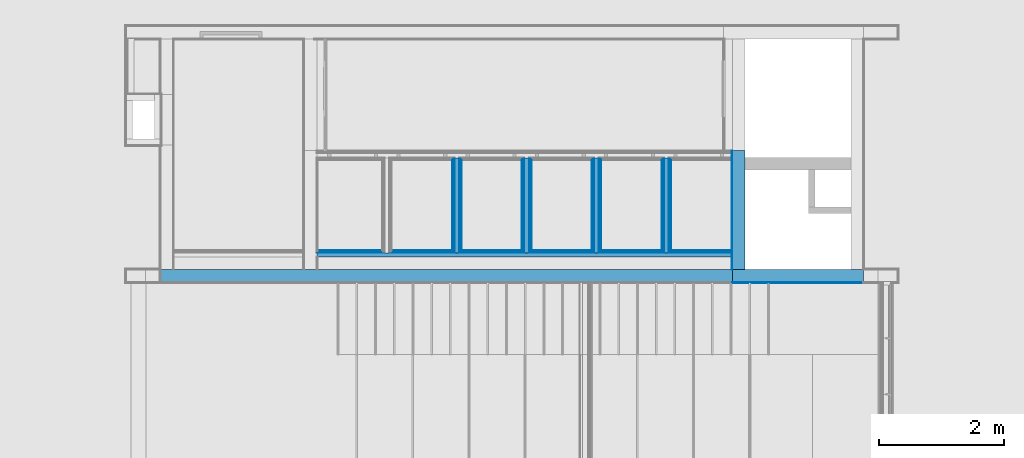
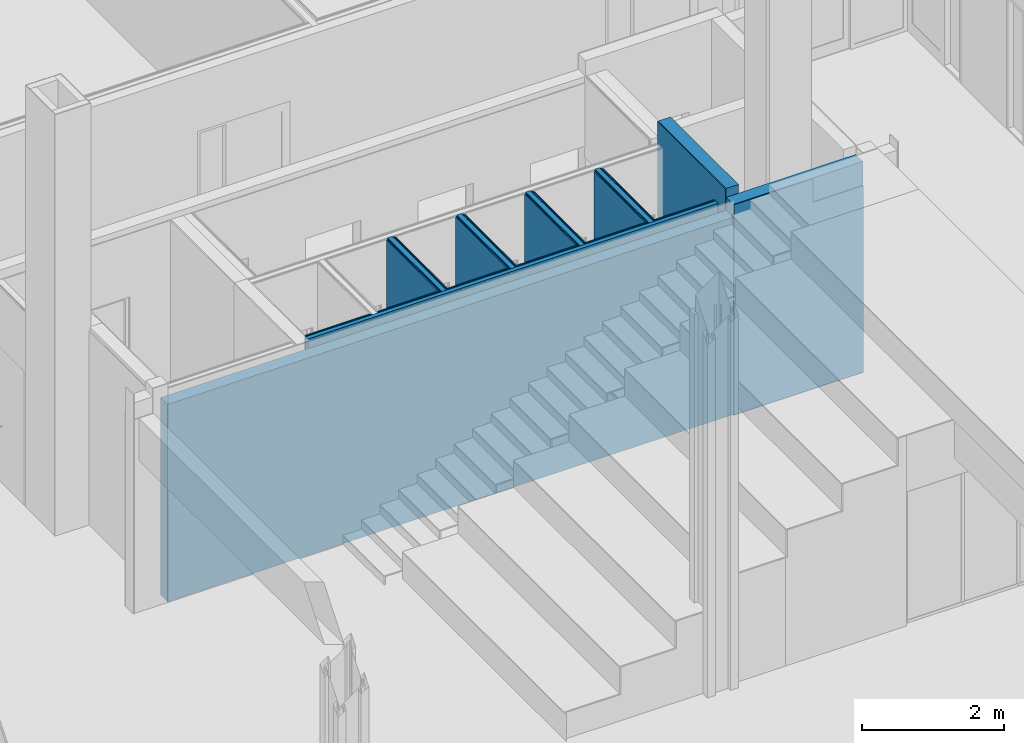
# One storey, part 95 of 139: 37 building element parts, 8 elements without a shape of their own.
"""IFC2X3 building model written with IfcOpenShell, lengths in millimetres."""

from ifc_helpers import new_model, entity, si_unit, converted_unit, derived_unit, money_unit, direction, frame, origin_with_axes, place, context, subcontext, project, spatial, faceted_brep, material, type_object, element, aggregate, save


model = new_model("IFC2X3")

# Units and contexts
model_context = context("Model", 3, precision=0.01, world=origin_with_axes(), true_north=direction((0.0, 1.0)))
body_context = subcontext(model_context, "Body", "Model", "MODEL_VIEW")
ifc_project = project(units=[si_unit("LENGTHUNIT", "METRE", prefix="MILLI"), si_unit("AREAUNIT", "SQUARE_METRE"), si_unit("VOLUMEUNIT", "CUBIC_METRE"), converted_unit("PLANEANGLEUNIT", "DEGREE", entity("IfcPlaneAngleMeasure", 0.0174532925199), si_unit("PLANEANGLEUNIT", "RADIAN"), dimensions=[0, 0, 0, 0, 0, 0, 0]), money_unit("EUR"), converted_unit("TIMEUNIT", "Year", entity("IfcTimeMeasure", 31556926.0), si_unit("TIMEUNIT", "SECOND"), dimensions=[0, 0, 1, 0, 0, 0, 0]), si_unit("MASSUNIT", "GRAM", prefix="KILO"), si_unit("THERMODYNAMICTEMPERATUREUNIT", "DEGREE_CELSIUS"), si_unit("LUMINOUSINTENSITYUNIT", "LUMEN"), si_unit("ENERGYUNIT", "JOULE", prefix="MEGA"), derived_unit("THERMALCONDUCTANCEUNIT", [(si_unit("POWERUNIT", "WATT"), 1), (si_unit("LENGTHUNIT", "METRE"), -1), (si_unit("THERMODYNAMICTEMPERATUREUNIT", "KELVIN"), -1)]), derived_unit("SPECIFICHEATCAPACITYUNIT", [(si_unit("ENERGYUNIT", "JOULE"), 1), (si_unit("MASSUNIT", "GRAM", prefix="KILO"), -1), (si_unit("THERMODYNAMICTEMPERATUREUNIT", "KELVIN"), -1)]), derived_unit("MASSDENSITYUNIT", [(si_unit("MASSUNIT", "GRAM", prefix="KILO"), 1), (si_unit("VOLUMEUNIT", "CUBIC_METRE"), -1)])], contexts=[model_context])

# Site, building, storey
site_placement = place(None, origin_with_axes())
site = spatial("IfcSite", under=ifc_project, at=site_placement, Name="Kolde pst 67a", CompositionType="ELEMENT")
building_placement = place(site_placement, origin_with_axes())
building = spatial("IfcBuilding", under=site, at=building_placement, Name="Riigigümnaasium", CompositionType="ELEMENT")
storey_placement = place(building_placement, frame((0.0, 0.0, 4600.0), z_axis=(0.0, 0.0, 1.0), x_axis=(1.0, 0.0, 0.0)))
storey = spatial("IfcBuildingStorey", under=building, at=storey_placement, Name="2. korrus", CompositionType="ELEMENT", Elevation=4600.0)

# Wall, building element parts
wall_type_1 = type_object("IfcWallType", Name="SS-RB-20/5_+1 plaat 215", PredefinedType="NOTDEFINED")
wall_1_placement = place(storey_placement, frame((45774.9854607, 45869.9999598, 0.0), z_axis=(0.0, 0.0, 1.0), x_axis=(0.0, 1.0, 0.0)))
wall_1 = element("IfcWall", 1, at=wall_1_placement, inside=storey, type_object=wall_type_1, Name="Sisesein")
ifc_material_1 = material(Name="_VIIMISTLUSKIHT - viimistlus vastavalt SA osale")
building_element_part_1_placement = place(wall_1_placement, origin_with_axes())
building_element_part_1 = element("IfcBuildingElementPart", 2, at=building_element_part_1_placement, material=ifc_material_1, Name="_VIIMISTLUSKIHT - viimistlus vastavalt SA osale", context=body_context, shape_type="Brep", body=[
    faceted_brep([(1908.50000096, 0.0, 3750.0), (1908.50000096, 15.0, 3750.0), (0.0, 15.0, 3750.0), (0.0, 0.0, 3750.0), (1908.50000096, 0.0, 0.0), (1908.50000096, 15.0, 0.0), (0.0, 15.0, 0.0), (0.0, 0.0, 0.0)], [[[0, 1, 2, 3]], [[0, 4, 5, 1]], [[1, 5, 6, 2]], [[3, 2, 6, 7]], [[4, 0, 3, 7]], [[5, 4, 7, 6]]]),
])
ifc_material_2 = material(Name="_KANDETARIND - monteeritav raudbetoon vastavalt EK osale")
building_element_part_2_placement = place(wall_1_placement, origin_with_axes())
building_element_part_2 = element("IfcBuildingElementPart", 3, at=building_element_part_2_placement, material=ifc_material_2, Name="_KANDETARIND - monteeritav raudbetoon vastavalt EK osale", context=body_context, shape_type="Brep", body=[
    faceted_brep([(1908.50000096, -200.0, 3750.0), (1908.50000096, 0.0, 3750.0), (0.0, 0.0, 3750.0), (0.0, -200.0, 3750.0), (1908.50000096, -200.0, 0.0), (1908.50000096, 0.0, 0.0), (0.0, 0.0, 0.0), (0.0, -200.0, 0.0)], [[[0, 1, 2, 3]], [[0, 4, 5, 1]], [[1, 5, 6, 2]], [[3, 2, 6, 7]], [[4, 0, 3, 7]], [[5, 4, 7, 6]]]),
])
aggregate(wall_1, [building_element_part_1, building_element_part_2])

wall_type_2 = type_object("IfcWallType", Name="SS-MK-7,5/1_plaaditud 155", PredefinedType="NOTDEFINED")
wall_2_placement = place(storey_placement, frame((44639.9854607, 46179.9999966, 0.0), z_axis=(0.0, 0.0, 1.0), x_axis=(0.0, 1.0, 0.0)))
wall_2 = element("IfcWall", 4, at=wall_2_placement, inside=storey, type_object=wall_type_2, Name="Sisesein")
building_element_part_3_placement = place(wall_2_placement, origin_with_axes())
building_element_part_3 = element("IfcBuildingElementPart", 5, at=building_element_part_3_placement, material=ifc_material_1, Name="_VIIMISTLUSKIHT - viimistlus vastavalt SA osale", context=body_context, shape_type="Brep", body=[
    faceted_brep([(1443.49996421, 0.0, 3380.0), (1443.49996421, -15.0, 3380.0), (1443.49996421, -15.0, 0.0), (1443.49996421, 0.0, 0.0), (0.0, -15.0, 3380.0), (0.0, 0.0, 3380.0), (0.0, -15.0, 0.0), (0.0, 0.0, 0.0)], [[[0, 1, 2, 3]], [[4, 1, 0, 5]], [[1, 4, 6, 2]], [[3, 2, 6, 7]], [[5, 0, 3, 7]], [[4, 5, 7, 6]]]),
])
ifc_material_3 = material(Name="_PLAATMATERJAL - kipsplaat veekindel")
building_element_part_4_placement = place(wall_2_placement, origin_with_axes())
building_element_part_4 = element("IfcBuildingElementPart", 6, at=building_element_part_4_placement, material=ifc_material_3, Name="_PLAATMATERJAL - kipsplaat veekindel", context=body_context, shape_type="Brep", body=[
    faceted_brep([(1458.49996421, -15.0, 3380.0), (1458.49996421, -27.5, 3380.0), (1458.49996421, -27.5, 0.0), (1458.49996421, -15.0, 0.0), (-15.0, -27.5, 3380.0), (-15.0, -15.0, 3380.0), (-15.0, -27.5, 0.0), (-15.0, -15.0, 0.0)], [[[0, 1, 2, 3]], [[4, 1, 0, 5]], [[1, 4, 6, 2]], [[3, 2, 6, 7]], [[5, 0, 3, 7]], [[4, 5, 7, 6]]]),
])
building_element_part_5_placement = place(wall_2_placement, origin_with_axes())
building_element_part_5 = element("IfcBuildingElementPart", 7, at=building_element_part_5_placement, material=ifc_material_3, Name="_PLAATMATERJAL - kipsplaat veekindel", context=body_context, shape_type="Brep", body=[
    faceted_brep([(1470.99996421, -27.5, 3380.0), (1470.99996421, -40.0, 3380.0), (1470.99996421, -40.0, 0.0), (1470.99996421, -27.5, 0.0), (-27.5, -40.0, 3380.0), (-27.5, -27.5, 3380.0), (-27.5, -40.0, 0.0), (-27.5, -27.5, 0.0)], [[[0, 1, 2, 3]], [[4, 1, 0, 5]], [[1, 4, 6, 2]], [[3, 2, 6, 7]], [[5, 0, 3, 7]], [[4, 5, 7, 6]]]),
])
ifc_material_4 = material(Name="_KARKASS - metallkarkass CW 75/50, mineraalvill karkassi vahel")
building_element_part_6_placement = place(wall_2_placement, origin_with_axes())
building_element_part_6 = element("IfcBuildingElementPart", 8, at=building_element_part_6_placement, material=ifc_material_4, Name="_KARKASS - metallkarkass CW 75/50, mineraalvill karkassi vahel", context=body_context, shape_type="Brep", body=[
    faceted_brep([(1483.49996421, -40.0, 3380.0), (1483.49996421, -115.0, 3380.0), (1483.49996421, -115.0, 0.0), (1483.49996421, -40.0, 0.0), (-40.0, -115.0, 3380.0), (-40.0, -40.0, 3380.0), (-40.0, -115.0, 0.0), (-40.0, -40.0, 0.0)], [[[0, 1, 2, 3]], [[4, 1, 0, 5]], [[1, 4, 6, 2]], [[3, 2, 6, 7]], [[5, 0, 3, 7]], [[4, 5, 7, 6]]]),
])
building_element_part_7_placement = place(wall_2_placement, origin_with_axes())
building_element_part_7 = element("IfcBuildingElementPart", 9, at=building_element_part_7_placement, material=ifc_material_3, Name="_PLAATMATERJAL - kipsplaat veekindel", context=body_context, shape_type="Brep", body=[
    faceted_brep([(1470.99996421, -115.0, 3380.0), (1470.99996421, -127.5, 3380.0), (1470.99996421, -127.5, 0.0), (1470.99996421, -115.0, 0.0), (-27.5, -127.5, 3380.0), (-27.5, -115.0, 3380.0), (-27.5, -127.5, 0.0), (-27.5, -115.0, 0.0)], [[[0, 1, 2, 3]], [[4, 1, 0, 5]], [[1, 4, 6, 2]], [[3, 2, 6, 7]], [[5, 0, 3, 7]], [[4, 5, 7, 6]]]),
])
building_element_part_8_placement = place(wall_2_placement, origin_with_axes())
building_element_part_8 = element("IfcBuildingElementPart", 10, at=building_element_part_8_placement, material=ifc_material_3, Name="_PLAATMATERJAL - kipsplaat veekindel", context=body_context, shape_type="Brep", body=[
    faceted_brep([(1458.49996421, -127.5, 3380.0), (1458.49996421, -140.0, 3380.0), (1458.49996421, -140.0, 0.0), (1458.49996421, -127.5, 0.0), (-15.0, -140.0, 3380.0), (-15.0, -127.5, 3380.0), (-15.0, -140.0, 0.0), (-15.0, -127.5, 0.0)], [[[0, 1, 2, 3]], [[4, 1, 0, 5]], [[1, 4, 6, 2]], [[3, 2, 6, 7]], [[5, 0, 3, 7]], [[4, 5, 7, 6]]]),
])
building_element_part_9_placement = place(wall_2_placement, origin_with_axes())
building_element_part_9 = element("IfcBuildingElementPart", 11, at=building_element_part_9_placement, material=ifc_material_1, Name="_VIIMISTLUSKIHT - viimistlus vastavalt SA osale", context=body_context, shape_type="Brep", body=[
    faceted_brep([(1443.49996421, -140.0, 3380.0), (1443.49996421, -155.0, 3380.0), (1443.49996421, -155.0, 0.0), (1443.49996421, -140.0, 0.0), (0.0, -155.0, 3380.0), (0.0, -140.0, 3380.0), (0.0, -155.0, 0.0), (0.0, -140.0, 0.0)], [[[0, 1, 2, 3]], [[4, 1, 0, 5]], [[1, 4, 6, 2]], [[3, 2, 6, 7]], [[5, 0, 3, 7]], [[4, 5, 7, 6]]]),
])
aggregate(wall_2, [building_element_part_3, building_element_part_4, building_element_part_5, building_element_part_6, building_element_part_7, building_element_part_8, building_element_part_9])

# Wall, building element part
wall_3_placement = place(storey_placement, frame((45774.9854607, 45669.9999598, -80.0), z_axis=(0.0, 0.0, 1.0), x_axis=(-1.0, 0.0, 0.0)))
wall_3 = element("IfcWall", 12, at=wall_3_placement, inside=storey, type_object=wall_type_1, Name="Sisesein")
building_element_part_10_placement = place(wall_3_placement, origin_with_axes())
building_element_part_10 = element("IfcBuildingElementPart", 13, at=building_element_part_10_placement, material=ifc_material_2, Name="_KANDETARIND - monteeritav raudbetoon vastavalt EK osale", context=body_context, shape_type="Brep", body=[
    faceted_brep([(9169.98623068, -200.0, 3460.0), (0.0, -200.0, 3460.0), (0.0, -200.0, 80.0), (9169.98623068, -200.0, 80.0), (0.0, 0.0, 3460.0), (9169.98623068, 0.0, 3460.0), (0.0, 0.0, 80.0), (9169.98623068, 0.0, 80.0)], [[[0, 1, 2, 3]], [[4, 1, 0, 5]], [[1, 4, 6, 2]], [[7, 3, 2, 6]], [[5, 0, 3, 7]], [[4, 5, 7, 6]]]),
])
aggregate(wall_3, [building_element_part_10])

# Wall, building element parts
wall_4_placement = place(storey_placement, frame((47874.9854607, 45669.9999598, -20.0), z_axis=(0.0, 0.0, 1.0), x_axis=(-1.0, 0.0, 0.0)))
wall_4 = element("IfcWall", 14, at=wall_4_placement, inside=storey, type_object=wall_type_1, Name="Sisesein")
building_element_part_11_placement = place(wall_4_placement, origin_with_axes())
building_element_part_11 = element("IfcBuildingElementPart", 15, at=building_element_part_11_placement, material=ifc_material_1, Name="_VIIMISTLUSKIHT - viimistlus vastavalt SA osale", context=body_context, shape_type="Brep", body=[
    faceted_brep([(819.760224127, 0.0, 3215.0), (0.0, 0.0, 3215.0), (0.0, 0.0, 20.0), (2100.0, 0.0, 20.0), (2100.0, 0.0, 3620.0), (819.760224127, 0.0, 3620.0), (0.0, 15.0, 3215.0), (819.760224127, 15.0, 3215.0), (0.0, 15.0, 20.0), (2100.0, 15.0, 20.0), (2100.0, 15.0, 3620.0), (819.760224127, 15.0, 3620.0)], [[[0, 1, 2, 3, 4, 5]], [[6, 1, 0, 7]], [[1, 6, 8, 2]], [[3, 2, 8, 9]], [[3, 9, 10, 4]], [[11, 5, 4, 10]], [[7, 0, 5, 11]], [[7, 11, 10, 9, 8, 6]]]),
])
building_element_part_12_placement = place(wall_4_placement, origin_with_axes())
building_element_part_12 = element("IfcBuildingElementPart", 16, at=building_element_part_12_placement, material=ifc_material_2, Name="_KANDETARIND - monteeritav raudbetoon vastavalt EK osale", context=body_context, shape_type="Brep", body=[
    faceted_brep([(0.0, -200.0, 3620.0), (2100.0, -200.0, 3620.0), (2100.0, 0.0, 3620.0), (0.0, 0.0, 3620.0), (0.0, -200.0, 0.0), (2100.0, -200.0, 0.0), (2100.0, 0.0, 0.0), (0.0, 0.0, 0.0)], [[[0, 1, 2, 3]], [[4, 5, 1, 0]], [[2, 1, 5, 6]], [[3, 2, 6, 7]], [[4, 0, 3, 7]], [[7, 6, 5, 4]]]),
])
aggregate(wall_4, [building_element_part_11, building_element_part_12])

wall_type_3 = type_object("IfcWallType", Name="SS-MK-66/3_šahti sein+plaat 106", PredefinedType="NOTDEFINED")
wall_5_placement = place(storey_placement, frame((39109.8305113, 46179.9999966, 0.0), z_axis=(0.0, 0.0, 1.0), x_axis=(1.0, 0.0, 0.0)))
wall_5 = element("IfcWall", 17, at=wall_5_placement, inside=storey, type_object=wall_type_3, Name="Varisein")
building_element_part_13_placement = place(wall_5_placement, origin_with_axes())
building_element_part_13 = element("IfcBuildingElementPart", 18, at=building_element_part_13_placement, material=ifc_material_1, Name="_VIIMISTLUSKIHT - viimistlus vastavalt SA osale", context=body_context, shape_type="Brep", body=[
    faceted_brep([(15.0, 0.0, 3380.0), (1065.15494935, 0.0, 3380.0), (1065.15494935, 0.0, 0.0), (15.0, 0.0, 0.0), (1065.15494935, -15.0, 3380.0), (15.0, -15.0, 3380.0), (1065.15494935, -15.0, 0.0), (15.0, -15.0, 0.0)], [[[0, 1, 2, 3]], [[4, 1, 0, 5]], [[1, 4, 6, 2]], [[6, 7, 3, 2]], [[5, 0, 3, 7]], [[4, 5, 7, 6]]]),
    faceted_brep([(1190.15494935, 0.0, 3380.0), (2185.15494935, 0.0, 3380.0), (2185.15494935, 0.0, 0.0), (1190.15494935, 0.0, 0.0), (2185.15494935, -15.0, 3380.0), (1190.15494935, -15.0, 3380.0), (2185.15494935, -15.0, 0.0), (1190.15494935, -15.0, 0.0)], [[[0, 1, 2, 3]], [[4, 1, 0, 5]], [[1, 4, 6, 2]], [[7, 3, 2, 6]], [[5, 0, 3, 7]], [[4, 5, 7, 6]]]),
    faceted_brep([(2310.15494935, 0.0, 3380.0), (3305.15494935, 0.0, 3380.0), (3305.15494935, 0.0, 0.0), (2310.15494935, 0.0, 0.0), (3305.15494935, -15.0, 3380.0), (2310.15494935, -15.0, 3380.0), (3305.15494935, -15.0, 0.0), (2310.15494935, -15.0, 0.0)], [[[0, 1, 2, 3]], [[4, 1, 0, 5]], [[1, 4, 6, 2]], [[7, 3, 2, 6]], [[5, 0, 3, 7]], [[4, 5, 7, 6]]]),
    faceted_brep([(3430.15494935, 0.0, 3380.0), (4425.15494935, 0.0, 3380.0), (4425.15494935, 0.0, 0.0), (3430.15494935, 0.0, 0.0), (4425.15494935, -15.0, 3380.0), (3430.15494935, -15.0, 3380.0), (4425.15494935, -15.0, 0.0), (3430.15494935, -15.0, 0.0)], [[[0, 1, 2, 3]], [[4, 1, 0, 5]], [[1, 4, 6, 2]], [[7, 3, 2, 6]], [[5, 0, 3, 7]], [[4, 5, 7, 6]]]),
    faceted_brep([(4550.15494935, 0.0, 3380.0), (5545.15494935, 0.0, 3380.0), (5545.15494935, 0.0, 0.0), (4550.15494935, 0.0, 0.0), (5545.15494935, -15.0, 3380.0), (4550.15494935, -15.0, 3380.0), (5545.15494935, -15.0, 0.0), (4550.15494935, -15.0, 0.0)], [[[0, 1, 2, 3]], [[4, 1, 0, 5]], [[1, 4, 6, 2]], [[7, 3, 2, 6]], [[5, 0, 3, 7]], [[4, 5, 7, 6]]]),
    faceted_brep([(6660.59108502, 0.0, 3380.0), (6660.59108502, 0.0, 3320.0), (6665.15494935, 0.0, 3320.0), (6665.15494935, 0.0, 0.0), (5670.15494935, 0.0, 0.0), (5670.15494935, 0.0, 3380.0), (6660.59108502, -15.0, 3380.0), (6660.59108502, -15.0, 3320.0), (6665.15494935, -15.0, 3320.0), (6665.15494935, -15.0, 0.0), (5670.15494935, -15.0, 0.0), (5670.15494935, -15.0, 3380.0)], [[[0, 1, 2, 3, 4, 5]], [[1, 0, 6, 7]], [[8, 2, 1, 7]], [[2, 8, 9, 3]], [[10, 4, 3, 9]], [[11, 5, 4, 10]], [[6, 0, 5, 11]], [[7, 6, 11, 10, 9, 8]]]),
])
building_element_part_14_placement = place(wall_5_placement, origin_with_axes())
building_element_part_14 = element("IfcBuildingElementPart", 19, at=building_element_part_14_placement, material=ifc_material_3, Name="_PLAATMATERJAL - kipsplaat veekindel", context=body_context, shape_type="Brep", body=[
    faceted_brep([(0.0, -15.0, 3380.0), (1077.65494935, -15.0, 3380.0), (1077.65494935, -15.0, 0.0), (0.0, -15.0, 0.0), (1077.65494935, -27.5, 3380.0), (0.0, -27.5, 3380.0), (1077.65494935, -27.5, 0.0), (0.0, -27.5, 0.0)], [[[0, 1, 2, 3]], [[4, 1, 0, 5]], [[1, 4, 6, 2]], [[6, 7, 3, 2]], [[5, 0, 3, 7]], [[4, 5, 7, 6]]]),
    faceted_brep([(1177.65494935, -15.0, 3380.0), (2197.65494935, -15.0, 3380.0), (2197.65494935, -15.0, 0.0), (1177.65494935, -15.0, 0.0), (2197.65494935, -27.5, 3380.0), (1177.65494935, -27.5, 3380.0), (2197.65494935, -27.5, 0.0), (1177.65494935, -27.5, 0.0)], [[[0, 1, 2, 3]], [[4, 1, 0, 5]], [[1, 4, 6, 2]], [[7, 3, 2, 6]], [[5, 0, 3, 7]], [[4, 5, 7, 6]]]),
    faceted_brep([(2297.65494935, -15.0, 3380.0), (3317.65494935, -15.0, 3380.0), (3317.65494935, -15.0, 0.0), (2297.65494935, -15.0, 0.0), (3317.65494935, -27.5, 3380.0), (2297.65494935, -27.5, 3380.0), (3317.65494935, -27.5, 0.0), (2297.65494935, -27.5, 0.0)], [[[0, 1, 2, 3]], [[4, 1, 0, 5]], [[1, 4, 6, 2]], [[7, 3, 2, 6]], [[5, 0, 3, 7]], [[4, 5, 7, 6]]]),
    faceted_brep([(3417.65494935, -15.0, 3380.0), (4437.65494935, -15.0, 3380.0), (4437.65494935, -15.0, 0.0), (3417.65494935, -15.0, 0.0), (4437.65494935, -27.5, 3380.0), (3417.65494935, -27.5, 3380.0), (4437.65494935, -27.5, 0.0), (3417.65494935, -27.5, 0.0)], [[[0, 1, 2, 3]], [[4, 1, 0, 5]], [[1, 4, 6, 2]], [[7, 3, 2, 6]], [[5, 0, 3, 7]], [[4, 5, 7, 6]]]),
    faceted_brep([(4537.65494935, -15.0, 3380.0), (5557.65494935, -15.0, 3380.0), (5557.65494935, -15.0, 0.0), (4537.65494935, -15.0, 0.0), (5557.65494935, -27.5, 3380.0), (4537.65494935, -27.5, 3380.0), (5557.65494935, -27.5, 0.0), (4537.65494935, -27.5, 0.0)], [[[0, 1, 2, 3]], [[4, 1, 0, 5]], [[1, 4, 6, 2]], [[7, 3, 2, 6]], [[5, 0, 3, 7]], [[4, 5, 7, 6]]]),
    faceted_brep([(6660.59108502, -15.0, 3380.0), (6660.59108502, -15.0, 3320.0), (6665.15494935, -15.0, 3320.0), (6665.15494935, -15.0, 0.0), (5657.65494935, -15.0, 0.0), (5657.65494935, -15.0, 3380.0), (6660.59108502, -27.5, 3380.0), (6660.59108502, -27.5, 3320.0), (6665.15494935, -27.5, 3320.0), (6665.15494935, -27.5, 0.0), (5657.65494935, -27.5, 0.0), (5657.65494935, -27.5, 3380.0)], [[[0, 1, 2, 3, 4, 5]], [[1, 0, 6, 7]], [[8, 2, 1, 7]], [[2, 8, 9, 3]], [[10, 4, 3, 9]], [[11, 5, 4, 10]], [[6, 0, 5, 11]], [[7, 6, 11, 10, 9, 8]]]),
])
building_element_part_15_placement = place(wall_5_placement, origin_with_axes())
building_element_part_15 = element("IfcBuildingElementPart", 20, at=building_element_part_15_placement, material=ifc_material_3, Name="_PLAATMATERJAL - kipsplaat veekindel", context=body_context, shape_type="Brep", body=[
    faceted_brep([(0.0, -27.5, 3380.0), (1090.15494935, -27.5, 3380.0), (1090.15494935, -27.5, 0.0), (0.0, -27.5, 0.0), (1090.15494935, -40.0, 3380.0), (0.0, -40.0, 3380.0), (1090.15494935, -40.0, 0.0), (0.0, -40.0, 0.0)], [[[0, 1, 2, 3]], [[4, 1, 0, 5]], [[1, 4, 6, 2]], [[6, 7, 3, 2]], [[5, 0, 3, 7]], [[4, 5, 7, 6]]]),
    faceted_brep([(1165.15494935, -27.5, 3380.0), (2210.15494935, -27.5, 3380.0), (2210.15494935, -27.5, 0.0), (1165.15494935, -27.5, 0.0), (2210.15494935, -40.0, 3380.0), (1165.15494935, -40.0, 3380.0), (2210.15494935, -40.0, 0.0), (1165.15494935, -40.0, 0.0)], [[[0, 1, 2, 3]], [[4, 1, 0, 5]], [[1, 4, 6, 2]], [[7, 3, 2, 6]], [[5, 0, 3, 7]], [[4, 5, 7, 6]]]),
    faceted_brep([(2285.15494935, -27.5, 3380.0), (3330.15494935, -27.5, 3380.0), (3330.15494935, -27.5, 0.0), (2285.15494935, -27.5, 0.0), (3330.15494935, -40.0, 3380.0), (2285.15494935, -40.0, 3380.0), (3330.15494935, -40.0, 0.0), (2285.15494935, -40.0, 0.0)], [[[0, 1, 2, 3]], [[4, 1, 0, 5]], [[1, 4, 6, 2]], [[7, 3, 2, 6]], [[5, 0, 3, 7]], [[4, 5, 7, 6]]]),
    faceted_brep([(3405.15494935, -27.5, 3380.0), (4450.15494935, -27.5, 3380.0), (4450.15494935, -27.5, 0.0), (3405.15494935, -27.5, 0.0), (4450.15494935, -40.0, 3380.0), (3405.15494935, -40.0, 3380.0), (4450.15494935, -40.0, 0.0), (3405.15494935, -40.0, 0.0)], [[[0, 1, 2, 3]], [[4, 1, 0, 5]], [[1, 4, 6, 2]], [[7, 3, 2, 6]], [[5, 0, 3, 7]], [[4, 5, 7, 6]]]),
    faceted_brep([(4525.15494935, -27.5, 3380.0), (5570.15494935, -27.5, 3380.0), (5570.15494935, -27.5, 0.0), (4525.15494935, -27.5, 0.0), (5570.15494935, -40.0, 3380.0), (4525.15494935, -40.0, 3380.0), (5570.15494935, -40.0, 0.0), (4525.15494935, -40.0, 0.0)], [[[0, 1, 2, 3]], [[4, 1, 0, 5]], [[1, 4, 6, 2]], [[7, 3, 2, 6]], [[5, 0, 3, 7]], [[4, 5, 7, 6]]]),
    faceted_brep([(6660.59108502, -27.5, 3380.0), (6660.59108502, -27.5, 3320.0), (6665.15494935, -27.5, 3320.0), (6665.15494935, -27.5, 0.0), (5645.15494935, -27.5, 0.0), (5645.15494935, -27.5, 3380.0), (6660.59108502, -40.0, 3380.0), (6660.59108502, -40.0, 3320.0), (6665.15494935, -40.0, 3320.0), (6665.15494935, -40.0, 0.0), (5645.15494935, -40.0, 0.0), (5645.15494935, -40.0, 3380.0)], [[[0, 1, 2, 3, 4, 5]], [[1, 0, 6, 7]], [[8, 2, 1, 7]], [[2, 8, 9, 3]], [[10, 4, 3, 9]], [[11, 5, 4, 10]], [[6, 0, 5, 11]], [[7, 6, 11, 10, 9, 8]]]),
])
building_element_part_16_placement = place(wall_5_placement, origin_with_axes())
building_element_part_16 = element("IfcBuildingElementPart", 21, at=building_element_part_16_placement, material=ifc_material_4, Name="_KARKASS - metallkarkass CW 75/50, mineraalvill karkassi vahel", context=body_context, shape_type="Brep", body=[
    faceted_brep([(6660.59108502, -40.0, 3380.0), (6660.59108502, -40.0, 3320.0), (6665.15494935, -40.0, 3320.0), (6665.15494935, -40.0, 0.0), (0.0, -40.0, 0.0), (0.0, -40.0, 3380.0), (6660.59108502, -106.0, 3380.0), (6660.59108502, -106.0, 3320.0), (6665.15494935, -106.0, 3320.0), (6665.15494935, -106.0, 0.0), (0.0, -106.0, 0.0), (0.0, -106.0, 3380.0)], [[[0, 1, 2, 3, 4, 5]], [[1, 0, 6, 7]], [[8, 2, 1, 7]], [[2, 8, 9, 3]], [[9, 10, 4, 3]], [[11, 5, 4, 10]], [[6, 0, 5, 11]], [[7, 6, 11, 10, 9, 8]]]),
])
aggregate(wall_5, [building_element_part_13, building_element_part_14, building_element_part_15, building_element_part_16])

wall_6_placement = place(storey_placement, frame((43519.9854607, 46179.9999966, 0.0), z_axis=(0.0, 0.0, 1.0), x_axis=(0.0, 1.0, 0.0)))
wall_6 = element("IfcWall", 22, at=wall_6_placement, inside=storey, type_object=wall_type_2, Name="Sisesein")
building_element_part_17_placement = place(wall_6_placement, origin_with_axes())
building_element_part_17 = element("IfcBuildingElementPart", 23, at=building_element_part_17_placement, material=ifc_material_1, Name="_VIIMISTLUSKIHT - viimistlus vastavalt SA osale", context=body_context, shape_type="Brep", body=[
    faceted_brep([(1443.49996421, 0.0, 3380.0), (1443.49996421, -15.0, 3380.0), (1443.49996421, -15.0, 0.0), (1443.49996421, 0.0, 0.0), (0.0, -15.0, 3380.0), (0.0, 0.0, 3380.0), (0.0, -15.0, 0.0), (0.0, 0.0, 0.0)], [[[0, 1, 2, 3]], [[4, 1, 0, 5]], [[1, 4, 6, 2]], [[3, 2, 6, 7]], [[5, 0, 3, 7]], [[4, 5, 7, 6]]]),
])
building_element_part_18_placement = place(wall_6_placement, origin_with_axes())
building_element_part_18 = element("IfcBuildingElementPart", 24, at=building_element_part_18_placement, material=ifc_material_3, Name="_PLAATMATERJAL - kipsplaat veekindel", context=body_context, shape_type="Brep", body=[
    faceted_brep([(1458.49996421, -15.0, 3380.0), (1458.49996421, -27.5, 3380.0), (1458.49996421, -27.5, 0.0), (1458.49996421, -15.0, 0.0), (-15.0, -27.5, 3380.0), (-15.0, -15.0, 3380.0), (-15.0, -27.5, 0.0), (-15.0, -15.0, 0.0)], [[[0, 1, 2, 3]], [[4, 1, 0, 5]], [[1, 4, 6, 2]], [[3, 2, 6, 7]], [[5, 0, 3, 7]], [[4, 5, 7, 6]]]),
])
building_element_part_19_placement = place(wall_6_placement, origin_with_axes())
building_element_part_19 = element("IfcBuildingElementPart", 25, at=building_element_part_19_placement, material=ifc_material_3, Name="_PLAATMATERJAL - kipsplaat veekindel", context=body_context, shape_type="Brep", body=[
    faceted_brep([(1470.99996421, -27.5, 3380.0), (1470.99996421, -40.0, 3380.0), (1470.99996421, -40.0, 0.0), (1470.99996421, -27.5, 0.0), (-27.5, -40.0, 3380.0), (-27.5, -27.5, 3380.0), (-27.5, -40.0, 0.0), (-27.5, -27.5, 0.0)], [[[0, 1, 2, 3]], [[4, 1, 0, 5]], [[1, 4, 6, 2]], [[3, 2, 6, 7]], [[5, 0, 3, 7]], [[4, 5, 7, 6]]]),
])
building_element_part_20_placement = place(wall_6_placement, origin_with_axes())
building_element_part_20 = element("IfcBuildingElementPart", 26, at=building_element_part_20_placement, material=ifc_material_4, Name="_KARKASS - metallkarkass CW 75/50, mineraalvill karkassi vahel", context=body_context, shape_type="Brep", body=[
    faceted_brep([(1483.49996421, -40.0, 3380.0), (1483.49996421, -115.0, 3380.0), (1483.49996421, -115.0, 0.0), (1483.49996421, -40.0, 0.0), (-40.0, -115.0, 3380.0), (-40.0, -40.0, 3380.0), (-40.0, -115.0, 0.0), (-40.0, -40.0, 0.0)], [[[0, 1, 2, 3]], [[4, 1, 0, 5]], [[1, 4, 6, 2]], [[3, 2, 6, 7]], [[5, 0, 3, 7]], [[4, 5, 7, 6]]]),
])
building_element_part_21_placement = place(wall_6_placement, origin_with_axes())
building_element_part_21 = element("IfcBuildingElementPart", 27, at=building_element_part_21_placement, material=ifc_material_3, Name="_PLAATMATERJAL - kipsplaat veekindel", context=body_context, shape_type="Brep", body=[
    faceted_brep([(1470.99996421, -115.0, 3380.0), (1470.99996421, -127.5, 3380.0), (1470.99996421, -127.5, 0.0), (1470.99996421, -115.0, 0.0), (-27.5, -127.5, 3380.0), (-27.5, -115.0, 3380.0), (-27.5, -127.5, 0.0), (-27.5, -115.0, 0.0)], [[[0, 1, 2, 3]], [[4, 1, 0, 5]], [[1, 4, 6, 2]], [[3, 2, 6, 7]], [[5, 0, 3, 7]], [[4, 5, 7, 6]]]),
])
building_element_part_22_placement = place(wall_6_placement, origin_with_axes())
building_element_part_22 = element("IfcBuildingElementPart", 28, at=building_element_part_22_placement, material=ifc_material_3, Name="_PLAATMATERJAL - kipsplaat veekindel", context=body_context, shape_type="Brep", body=[
    faceted_brep([(1458.49996421, -127.5, 3380.0), (1458.49996421, -140.0, 3380.0), (1458.49996421, -140.0, 0.0), (1458.49996421, -127.5, 0.0), (-15.0, -140.0, 3380.0), (-15.0, -127.5, 3380.0), (-15.0, -140.0, 0.0), (-15.0, -127.5, 0.0)], [[[0, 1, 2, 3]], [[4, 1, 0, 5]], [[1, 4, 6, 2]], [[3, 2, 6, 7]], [[5, 0, 3, 7]], [[4, 5, 7, 6]]]),
])
building_element_part_23_placement = place(wall_6_placement, origin_with_axes())
building_element_part_23 = element("IfcBuildingElementPart", 29, at=building_element_part_23_placement, material=ifc_material_1, Name="_VIIMISTLUSKIHT - viimistlus vastavalt SA osale", context=body_context, shape_type="Brep", body=[
    faceted_brep([(1443.49996421, -140.0, 3380.0), (1443.49996421, -155.0, 3380.0), (1443.49996421, -155.0, 0.0), (1443.49996421, -140.0, 0.0), (0.0, -155.0, 3380.0), (0.0, -140.0, 3380.0), (0.0, -155.0, 0.0), (0.0, -140.0, 0.0)], [[[0, 1, 2, 3]], [[4, 1, 0, 5]], [[1, 4, 6, 2]], [[3, 2, 6, 7]], [[5, 0, 3, 7]], [[4, 5, 7, 6]]]),
])
aggregate(wall_6, [building_element_part_17, building_element_part_18, building_element_part_19, building_element_part_20, building_element_part_21, building_element_part_22, building_element_part_23])

wall_7_placement = place(storey_placement, frame((42399.9854607, 46179.9999966, 0.0), z_axis=(0.0, 0.0, 1.0), x_axis=(0.0, 1.0, 0.0)))
wall_7 = element("IfcWall", 30, at=wall_7_placement, inside=storey, type_object=wall_type_2, Name="Sisesein")
building_element_part_24_placement = place(wall_7_placement, origin_with_axes())
building_element_part_24 = element("IfcBuildingElementPart", 31, at=building_element_part_24_placement, material=ifc_material_1, Name="_VIIMISTLUSKIHT - viimistlus vastavalt SA osale", context=body_context, shape_type="Brep", body=[
    faceted_brep([(1443.49996421, 0.0, 3380.0), (1443.49996421, -15.0, 3380.0), (1443.49996421, -15.0, 0.0), (1443.49996421, 0.0, 0.0), (0.0, -15.0, 3380.0), (0.0, 0.0, 3380.0), (0.0, -15.0, 0.0), (0.0, 0.0, 0.0)], [[[0, 1, 2, 3]], [[4, 1, 0, 5]], [[1, 4, 6, 2]], [[3, 2, 6, 7]], [[5, 0, 3, 7]], [[4, 5, 7, 6]]]),
])
building_element_part_25_placement = place(wall_7_placement, origin_with_axes())
building_element_part_25 = element("IfcBuildingElementPart", 32, at=building_element_part_25_placement, material=ifc_material_3, Name="_PLAATMATERJAL - kipsplaat veekindel", context=body_context, shape_type="Brep", body=[
    faceted_brep([(1458.49996421, -15.0, 3380.0), (1458.49996421, -27.5, 3380.0), (1458.49996421, -27.5, 0.0), (1458.49996421, -15.0, 0.0), (-15.0, -27.5, 3380.0), (-15.0, -15.0, 3380.0), (-15.0, -27.5, 0.0), (-15.0, -15.0, 0.0)], [[[0, 1, 2, 3]], [[4, 1, 0, 5]], [[1, 4, 6, 2]], [[3, 2, 6, 7]], [[5, 0, 3, 7]], [[4, 5, 7, 6]]]),
])
building_element_part_26_placement = place(wall_7_placement, origin_with_axes())
building_element_part_26 = element("IfcBuildingElementPart", 33, at=building_element_part_26_placement, material=ifc_material_3, Name="_PLAATMATERJAL - kipsplaat veekindel", context=body_context, shape_type="Brep", body=[
    faceted_brep([(1470.99996421, -27.5, 3380.0), (1470.99996421, -40.0, 3380.0), (1470.99996421, -40.0, 0.0), (1470.99996421, -27.5, 0.0), (-27.5, -40.0, 3380.0), (-27.5, -27.5, 3380.0), (-27.5, -40.0, 0.0), (-27.5, -27.5, 0.0)], [[[0, 1, 2, 3]], [[4, 1, 0, 5]], [[1, 4, 6, 2]], [[3, 2, 6, 7]], [[5, 0, 3, 7]], [[4, 5, 7, 6]]]),
])
building_element_part_27_placement = place(wall_7_placement, origin_with_axes())
building_element_part_27 = element("IfcBuildingElementPart", 34, at=building_element_part_27_placement, material=ifc_material_4, Name="_KARKASS - metallkarkass CW 75/50, mineraalvill karkassi vahel", context=body_context, shape_type="Brep", body=[
    faceted_brep([(1483.49996421, -40.0, 3380.0), (1483.49996421, -115.0, 3380.0), (1483.49996421, -115.0, 0.0), (1483.49996421, -40.0, 0.0), (-40.0, -115.0, 3380.0), (-40.0, -40.0, 3380.0), (-40.0, -115.0, 0.0), (-40.0, -40.0, 0.0)], [[[0, 1, 2, 3]], [[4, 1, 0, 5]], [[1, 4, 6, 2]], [[3, 2, 6, 7]], [[5, 0, 3, 7]], [[4, 5, 7, 6]]]),
])
building_element_part_28_placement = place(wall_7_placement, origin_with_axes())
building_element_part_28 = element("IfcBuildingElementPart", 35, at=building_element_part_28_placement, material=ifc_material_3, Name="_PLAATMATERJAL - kipsplaat veekindel", context=body_context, shape_type="Brep", body=[
    faceted_brep([(1470.99996421, -115.0, 3380.0), (1470.99996421, -127.5, 3380.0), (1470.99996421, -127.5, 0.0), (1470.99996421, -115.0, 0.0), (-27.5, -127.5, 3380.0), (-27.5, -115.0, 3380.0), (-27.5, -127.5, 0.0), (-27.5, -115.0, 0.0)], [[[0, 1, 2, 3]], [[4, 1, 0, 5]], [[1, 4, 6, 2]], [[3, 2, 6, 7]], [[5, 0, 3, 7]], [[4, 5, 7, 6]]]),
])
building_element_part_29_placement = place(wall_7_placement, origin_with_axes())
building_element_part_29 = element("IfcBuildingElementPart", 36, at=building_element_part_29_placement, material=ifc_material_3, Name="_PLAATMATERJAL - kipsplaat veekindel", context=body_context, shape_type="Brep", body=[
    faceted_brep([(1458.49996421, -127.5, 3380.0), (1458.49996421, -140.0, 3380.0), (1458.49996421, -140.0, 0.0), (1458.49996421, -127.5, 0.0), (-15.0, -140.0, 3380.0), (-15.0, -127.5, 3380.0), (-15.0, -140.0, 0.0), (-15.0, -127.5, 0.0)], [[[0, 1, 2, 3]], [[4, 1, 0, 5]], [[1, 4, 6, 2]], [[3, 2, 6, 7]], [[5, 0, 3, 7]], [[4, 5, 7, 6]]]),
])
building_element_part_30_placement = place(wall_7_placement, origin_with_axes())
building_element_part_30 = element("IfcBuildingElementPart", 37, at=building_element_part_30_placement, material=ifc_material_1, Name="_VIIMISTLUSKIHT - viimistlus vastavalt SA osale", context=body_context, shape_type="Brep", body=[
    faceted_brep([(1443.49996421, -140.0, 3380.0), (1443.49996421, -155.0, 3380.0), (1443.49996421, -155.0, 0.0), (1443.49996421, -140.0, 0.0), (0.0, -155.0, 3380.0), (0.0, -140.0, 3380.0), (0.0, -155.0, 0.0), (0.0, -140.0, 0.0)], [[[0, 1, 2, 3]], [[4, 1, 0, 5]], [[1, 4, 6, 2]], [[3, 2, 6, 7]], [[5, 0, 3, 7]], [[4, 5, 7, 6]]]),
])
aggregate(wall_7, [building_element_part_24, building_element_part_25, building_element_part_26, building_element_part_27, building_element_part_28, building_element_part_29, building_element_part_30])

wall_8_placement = place(storey_placement, frame((41279.9854607, 46179.9999966, 0.0), z_axis=(0.0, 0.0, 1.0), x_axis=(0.0, 1.0, 0.0)))
wall_8 = element("IfcWall", 38, at=wall_8_placement, inside=storey, type_object=wall_type_2, Name="Sisesein")
building_element_part_31_placement = place(wall_8_placement, origin_with_axes())
building_element_part_31 = element("IfcBuildingElementPart", 39, at=building_element_part_31_placement, material=ifc_material_1, Name="_VIIMISTLUSKIHT - viimistlus vastavalt SA osale", context=body_context, shape_type="Brep", body=[
    faceted_brep([(1443.49996421, 0.0, 3380.0), (1443.49996421, -15.0, 3380.0), (1443.49996421, -15.0, 0.0), (1443.49996421, 0.0, 0.0), (0.0, -15.0, 3380.0), (0.0, 0.0, 3380.0), (0.0, -15.0, 0.0), (0.0, 0.0, 0.0)], [[[0, 1, 2, 3]], [[4, 1, 0, 5]], [[1, 4, 6, 2]], [[3, 2, 6, 7]], [[5, 0, 3, 7]], [[4, 5, 7, 6]]]),
])
building_element_part_32_placement = place(wall_8_placement, origin_with_axes())
building_element_part_32 = element("IfcBuildingElementPart", 40, at=building_element_part_32_placement, material=ifc_material_3, Name="_PLAATMATERJAL - kipsplaat veekindel", context=body_context, shape_type="Brep", body=[
    faceted_brep([(1458.49996421, -15.0, 3380.0), (1458.49996421, -27.5, 3380.0), (1458.49996421, -27.5, 0.0), (1458.49996421, -15.0, 0.0), (-15.0, -27.5, 3380.0), (-15.0, -15.0, 3380.0), (-15.0, -27.5, 0.0), (-15.0, -15.0, 0.0)], [[[0, 1, 2, 3]], [[4, 1, 0, 5]], [[1, 4, 6, 2]], [[3, 2, 6, 7]], [[5, 0, 3, 7]], [[4, 5, 7, 6]]]),
])
building_element_part_33_placement = place(wall_8_placement, origin_with_axes())
building_element_part_33 = element("IfcBuildingElementPart", 41, at=building_element_part_33_placement, material=ifc_material_3, Name="_PLAATMATERJAL - kipsplaat veekindel", context=body_context, shape_type="Brep", body=[
    faceted_brep([(1470.99996421, -27.5, 3380.0), (1470.99996421, -40.0, 3380.0), (1470.99996421, -40.0, 0.0), (1470.99996421, -27.5, 0.0), (-27.5, -40.0, 3380.0), (-27.5, -27.5, 3380.0), (-27.5, -40.0, 0.0), (-27.5, -27.5, 0.0)], [[[0, 1, 2, 3]], [[4, 1, 0, 5]], [[1, 4, 6, 2]], [[3, 2, 6, 7]], [[5, 0, 3, 7]], [[4, 5, 7, 6]]]),
])
building_element_part_34_placement = place(wall_8_placement, origin_with_axes())
building_element_part_34 = element("IfcBuildingElementPart", 42, at=building_element_part_34_placement, material=ifc_material_4, Name="_KARKASS - metallkarkass CW 75/50, mineraalvill karkassi vahel", context=body_context, shape_type="Brep", body=[
    faceted_brep([(1483.49996421, -40.0, 3380.0), (1483.49996421, -115.0, 3380.0), (1483.49996421, -115.0, 0.0), (1483.49996421, -40.0, 0.0), (-40.0, -115.0, 3380.0), (-40.0, -40.0, 3380.0), (-40.0, -115.0, 0.0), (-40.0, -40.0, 0.0)], [[[0, 1, 2, 3]], [[4, 1, 0, 5]], [[1, 4, 6, 2]], [[3, 2, 6, 7]], [[5, 0, 3, 7]], [[4, 5, 7, 6]]]),
])
building_element_part_35_placement = place(wall_8_placement, origin_with_axes())
building_element_part_35 = element("IfcBuildingElementPart", 43, at=building_element_part_35_placement, material=ifc_material_3, Name="_PLAATMATERJAL - kipsplaat veekindel", context=body_context, shape_type="Brep", body=[
    faceted_brep([(1470.99996421, -115.0, 3380.0), (1470.99996421, -127.5, 3380.0), (1470.99996421, -127.5, 0.0), (1470.99996421, -115.0, 0.0), (-27.5, -127.5, 3380.0), (-27.5, -115.0, 3380.0), (-27.5, -127.5, 0.0), (-27.5, -115.0, 0.0)], [[[0, 1, 2, 3]], [[4, 1, 0, 5]], [[1, 4, 6, 2]], [[3, 2, 6, 7]], [[5, 0, 3, 7]], [[4, 5, 7, 6]]]),
])
building_element_part_36_placement = place(wall_8_placement, origin_with_axes())
building_element_part_36 = element("IfcBuildingElementPart", 44, at=building_element_part_36_placement, material=ifc_material_3, Name="_PLAATMATERJAL - kipsplaat veekindel", context=body_context, shape_type="Brep", body=[
    faceted_brep([(1458.49996421, -127.5, 3380.0), (1458.49996421, -140.0, 3380.0), (1458.49996421, -140.0, 0.0), (1458.49996421, -127.5, 0.0), (-15.0, -140.0, 3380.0), (-15.0, -127.5, 3380.0), (-15.0, -140.0, 0.0), (-15.0, -127.5, 0.0)], [[[0, 1, 2, 3]], [[4, 1, 0, 5]], [[1, 4, 6, 2]], [[3, 2, 6, 7]], [[5, 0, 3, 7]], [[4, 5, 7, 6]]]),
])
building_element_part_37_placement = place(wall_8_placement, origin_with_axes())
building_element_part_37 = element("IfcBuildingElementPart", 45, at=building_element_part_37_placement, material=ifc_material_1, Name="_VIIMISTLUSKIHT - viimistlus vastavalt SA osale", context=body_context, shape_type="Brep", body=[
    faceted_brep([(1443.49996421, -140.0, 3380.0), (1443.49996421, -155.0, 3380.0), (1443.49996421, -155.0, 0.0), (1443.49996421, -140.0, 0.0), (0.0, -155.0, 3380.0), (0.0, -140.0, 3380.0), (0.0, -155.0, 0.0), (0.0, -140.0, 0.0)], [[[0, 1, 2, 3]], [[4, 1, 0, 5]], [[1, 4, 6, 2]], [[3, 2, 6, 7]], [[5, 0, 3, 7]], [[4, 5, 7, 6]]]),
])
aggregate(wall_8, [building_element_part_31, building_element_part_32, building_element_part_33, building_element_part_34, building_element_part_35, building_element_part_36, building_element_part_37])

save(model, "model.ifc")
